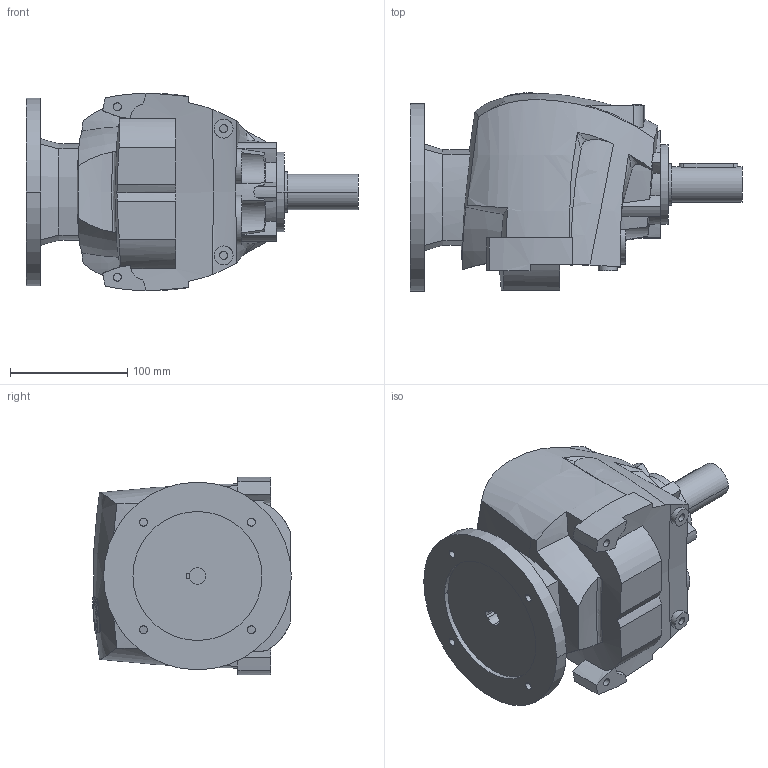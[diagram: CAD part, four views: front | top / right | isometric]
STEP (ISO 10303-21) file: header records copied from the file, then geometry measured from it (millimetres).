
FILE_DESCRIPTION((''),'2;1');
FILE_NAME('R25_UNV_PAM71_D2','2013-12-15T',('Luca'),(''),'PRO/ENGINEER BY PARAMETRIC TECHNOLOGY CORPORATION, 2008230','PRO/ENGINEER BY PARAMETRIC TECHNOLOGY CORPORATION, 2008230','');
FILE_SCHEMA(('CONFIG_CONTROL_DESIGN'));
Length unit declared in the file: millimetre
Products named in the file (1): R25_UNV_PAM71_D2
Bounding box: 283 x 169.3 x 168.44 mm (x, y, z)
Volume: 3426677.3 mm3; surface area: 185890.2 mm2
Topology: 1 solids, 1 shells, 383 faces, 1042 edges, 695 vertices
Faces by surface type: plane 140, cylinder 115, bspline 114, cone 8, torus 6
Entity records: 17935 total; most frequent: CARTESIAN_POINT 9138, ORIENTED_EDGE 2080, DIRECTION 1384, EDGE_CURVE 1040, VERTEX_POINT 695, AXIS2_PLACEMENT_3D 474, VECTOR 436, LINE 436
